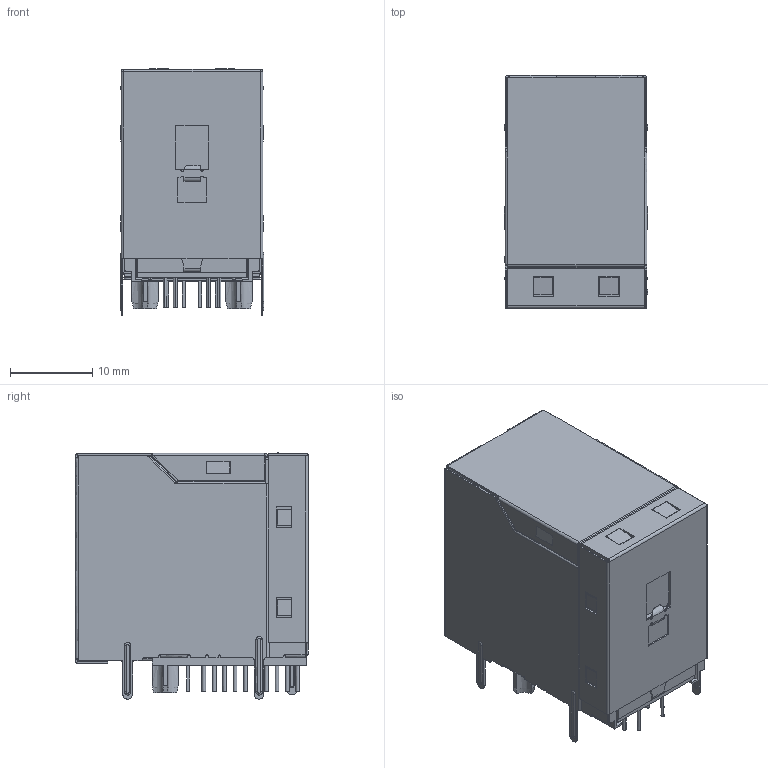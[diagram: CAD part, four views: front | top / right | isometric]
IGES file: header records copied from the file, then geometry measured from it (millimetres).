
Start section:  PTC IGES file: DGKYD21Q042AB2A2D057.igs
Global section: file name: DGKYD21Q042AB2A2D057.igs; native system: Creo Parametric by PTC Inc.; preprocessor: 2018400; author: Administrator; organization: Unknown; date: 20220909.085317; units: millimetre
Bounding box: 17.47 x 28.35 x 30.01 mm (x, y, z)
Surface area: 14207.2 mm2 (no closed solid volume)
Topology: 0 solids, 0 shells, 2882 faces, 16764 edges, 16744 vertices
Faces by surface type: bspline 2064, revolution 816, extrusion 2
